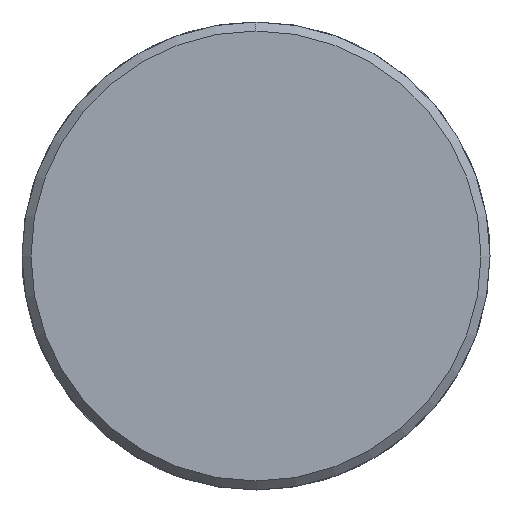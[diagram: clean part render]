
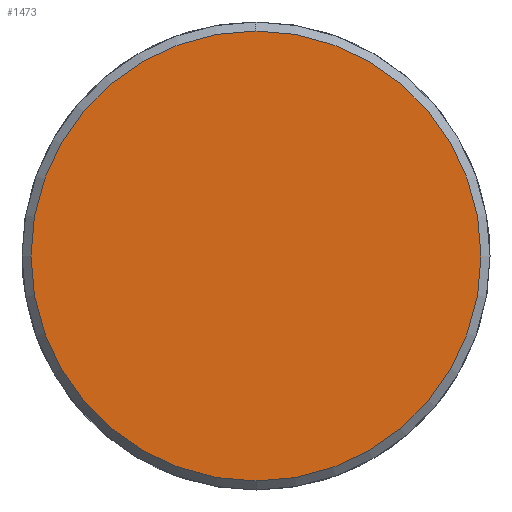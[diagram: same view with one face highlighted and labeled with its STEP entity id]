
A CAD part, left-side view. The second image highlights one B-rep face of the part: STEP entity #1473.
In plain terms, the highlighted planar face has unit normal (-1, 0, 0).
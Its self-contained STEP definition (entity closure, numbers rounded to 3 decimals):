
#1405=CARTESIAN_POINT('Vertex',(-8.,0.,-25.)) ;
#1408=CARTESIAN_POINT('Axis2P3D Location',(-8.,0.,0.)) ;
#1412=CARTESIAN_POINT('Vertex',(-8.,25.,0.)) ;
#1415=CARTESIAN_POINT('Axis2P3D Location',(-8.,0.,0.)) ;
#1419=CARTESIAN_POINT('Vertex',(-8.,0.,25.)) ;
#1441=CARTESIAN_POINT('Axis2P3D Location',(-8.,0.,0.)) ;
#1445=CARTESIAN_POINT('Vertex',(-8.,-25.,0.)) ;
#1448=CARTESIAN_POINT('Axis2P3D Location',(-8.,0.,0.)) ;
#1462=CARTESIAN_POINT('Axis2P3D Location',(-8.,0.,0.)) ;
#1409=DIRECTION('Axis2P3D Direction',(1.,0.,-0.)) ;
#1416=DIRECTION('Axis2P3D Direction',(1.,0.,-0.)) ;
#1442=DIRECTION('Axis2P3D Direction',(1.,0.,-0.)) ;
#1449=DIRECTION('Axis2P3D Direction',(1.,0.,-0.)) ;
#1463=DIRECTION('Axis2P3D Direction',(1.,0.,-0.)) ;
#1464=DIRECTION('Axis2P3D XDirection',(-0.,0.,-1.)) ;
#1410=AXIS2_PLACEMENT_3D('Circle Axis2P3D',#1408,#1409,$) ;
#1417=AXIS2_PLACEMENT_3D('Circle Axis2P3D',#1415,#1416,$) ;
#1443=AXIS2_PLACEMENT_3D('Circle Axis2P3D',#1441,#1442,$) ;
#1450=AXIS2_PLACEMENT_3D('Circle Axis2P3D',#1448,#1449,$) ;
#1465=AXIS2_PLACEMENT_3D('Plane Axis2P3D',#1462,#1463,#1464) ;
#1468=ORIENTED_EDGE('',*,*,#1414,.F.) ;
#1469=ORIENTED_EDGE('',*,*,#1452,.F.) ;
#1470=ORIENTED_EDGE('',*,*,#1447,.F.) ;
#1471=ORIENTED_EDGE('',*,*,#1421,.F.) ;
#1473=ADVANCED_FACE('351-40X76X240',(#1472),#1466,.F.) ;
#1411=CIRCLE('generated circle',#1410,25.) ;
#1418=CIRCLE('generated circle',#1417,25.) ;
#1444=CIRCLE('generated circle',#1443,25.) ;
#1451=CIRCLE('generated circle',#1450,25.) ;
#1414=EDGE_CURVE('',#1406,#1413,#1411,.T.) ;
#1421=EDGE_CURVE('',#1413,#1420,#1418,.T.) ;
#1447=EDGE_CURVE('',#1420,#1446,#1444,.T.) ;
#1452=EDGE_CURVE('',#1446,#1406,#1451,.T.) ;
#1467=EDGE_LOOP('',(#1468,#1469,#1470,#1471)) ;
#1472=FACE_OUTER_BOUND('',#1467,.T.) ;
#1466=PLANE('Plane',#1465) ;
#1406=VERTEX_POINT('',#1405) ;
#1413=VERTEX_POINT('',#1412) ;
#1420=VERTEX_POINT('',#1419) ;
#1446=VERTEX_POINT('',#1445) ;
